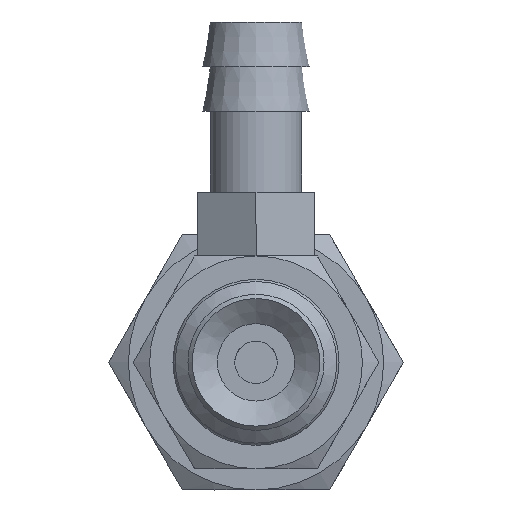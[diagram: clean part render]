
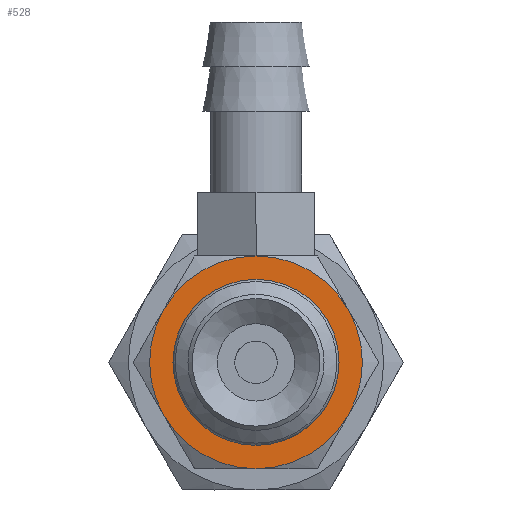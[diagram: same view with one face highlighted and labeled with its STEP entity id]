
A CAD part, front view. The second image highlights one B-rep face of the part: STEP entity #528.
In plain terms, the highlighted planar face has unit normal (0, -1, 0).
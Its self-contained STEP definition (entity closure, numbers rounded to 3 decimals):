
#528=ADVANCED_FACE('',(#765,#766),#767,.T.);
#765=FACE_BOUND('',#1106,.T.);
#766=FACE_OUTER_BOUND('',#1107,.T.);
#767=PLANE('',#1108);
#1106=EDGE_LOOP('',(#1785));
#1107=EDGE_LOOP('',(#1786,#1787,#1788,#1789,#1790,#1791));
#1108=AXIS2_PLACEMENT_3D('',#1792,#1793,#1794);
#1785=ORIENTED_EDGE('',*,*,#2290,.F.);
#1786=ORIENTED_EDGE('',*,*,#2331,.T.);
#1787=ORIENTED_EDGE('',*,*,#2272,.T.);
#1788=ORIENTED_EDGE('',*,*,#2260,.T.);
#1789=ORIENTED_EDGE('',*,*,#2288,.T.);
#1790=ORIENTED_EDGE('',*,*,#2332,.T.);
#1791=ORIENTED_EDGE('',*,*,#2333,.T.);
#1792=CARTESIAN_POINT('',(2.0,0.,0.0));
#1793=DIRECTION('',(0.0,-1.0,0.0));
#1794=DIRECTION('',(0.0,0.0,-1.0));
#2260=EDGE_CURVE('',#2555,#2566,#2568,.T.);
#2272=EDGE_CURVE('',#2579,#2555,#2588,.T.);
#2288=EDGE_CURVE('',#2566,#2599,#2614,.T.);
#2290=EDGE_CURVE('',#2617,#2617,#2618,.T.);
#2331=EDGE_CURVE('',#2589,#2579,#2693,.T.);
#2332=EDGE_CURVE('',#2599,#2610,#2694,.T.);
#2333=EDGE_CURVE('',#2610,#2589,#2695,.T.);
#2555=VERTEX_POINT('',#3249);
#2566=VERTEX_POINT('',#3270);
#2568=CIRCLE('',#3274,5.0);
#2579=VERTEX_POINT('',#3292);
#2588=CIRCLE('',#3310,5.0);
#2589=VERTEX_POINT('',#3311);
#2599=VERTEX_POINT('',#3330);
#2610=VERTEX_POINT('',#3352);
#2614=CIRCLE('',#3362,5.0);
#2617=VERTEX_POINT('',#3365);
#2618=CIRCLE('',#3366,2.0);
#2693=CIRCLE('',#3518,5.0);
#2694=CIRCLE('',#3519,5.0);
#2695=CIRCLE('',#3520,5.0);
#3249=CARTESIAN_POINT('',(4.33,0.0,2.5));
#3270=CARTESIAN_POINT('',(0.0,0.0,5.0));
#3274=AXIS2_PLACEMENT_3D('',#3787,#3788,#3789);
#3292=CARTESIAN_POINT('',(4.33,0.0,-2.5));
#3310=AXIS2_PLACEMENT_3D('',#3798,#3799,#3800);
#3311=CARTESIAN_POINT('',(0.0,0.0,-5.0));
#3330=CARTESIAN_POINT('',(-4.33,0.,2.5));
#3352=CARTESIAN_POINT('',(-4.33,0.0,-2.5));
#3362=AXIS2_PLACEMENT_3D('',#3806,#3807,#3808);
#3365=CARTESIAN_POINT('',(0.0,0.,-2.0));
#3366=AXIS2_PLACEMENT_3D('',#3812,#3813,#3814);
#3518=AXIS2_PLACEMENT_3D('',#3883,#3884,#3885);
#3519=AXIS2_PLACEMENT_3D('',#3886,#3887,#3888);
#3520=AXIS2_PLACEMENT_3D('',#3889,#3890,#3891);
#3787=CARTESIAN_POINT('',(0.0,0.,0.0));
#3788=DIRECTION('',(0.0,-1.0,0.0));
#3789=DIRECTION('',(0.0,0.0,-1.0));
#3798=CARTESIAN_POINT('',(0.0,0.,0.0));
#3799=DIRECTION('',(0.0,-1.0,0.0));
#3800=DIRECTION('',(0.0,0.0,-1.0));
#3806=CARTESIAN_POINT('',(0.0,0.,0.0));
#3807=DIRECTION('',(0.0,-1.0,0.0));
#3808=DIRECTION('',(0.0,0.0,-1.0));
#3812=CARTESIAN_POINT('',(0.0,0.,0.0));
#3813=DIRECTION('',(0.0,-1.0,0.0));
#3814=DIRECTION('',(0.0,0.0,-1.0));
#3883=CARTESIAN_POINT('',(0.0,0.,0.0));
#3884=DIRECTION('',(0.0,-1.0,0.0));
#3885=DIRECTION('',(0.0,0.0,-1.0));
#3886=CARTESIAN_POINT('',(0.0,0.,0.0));
#3887=DIRECTION('',(0.0,-1.0,0.0));
#3888=DIRECTION('',(0.0,0.0,-1.0));
#3889=CARTESIAN_POINT('',(0.0,0.,0.0));
#3890=DIRECTION('',(0.0,-1.0,0.0));
#3891=DIRECTION('',(0.0,0.0,-1.0));
